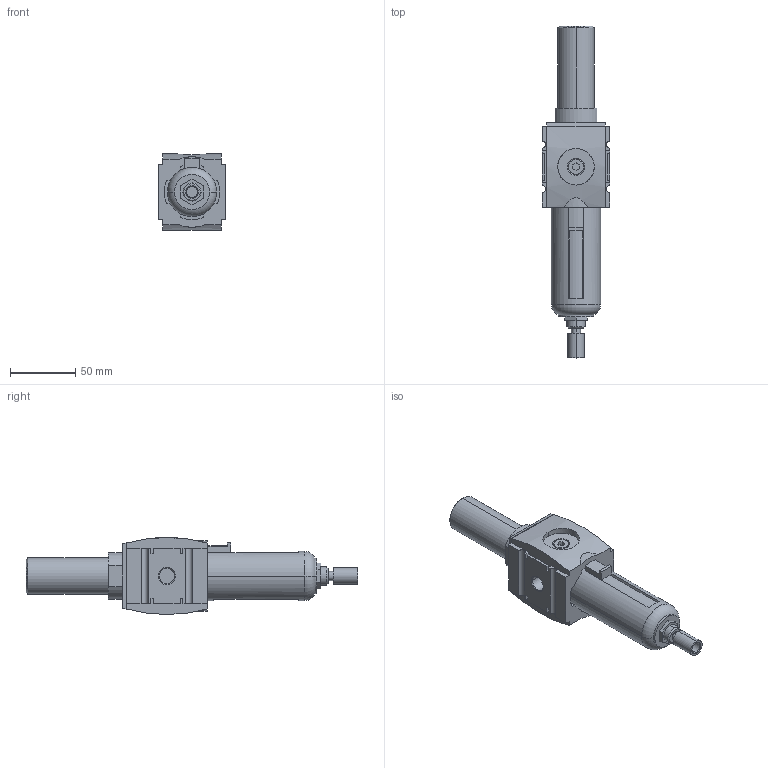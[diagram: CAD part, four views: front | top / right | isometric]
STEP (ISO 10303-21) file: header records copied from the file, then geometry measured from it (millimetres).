
FILE_DESCRIPTION((''),'2;1');
FILE_NAME('R412006189_ASM','2019-05-31T',('hug2hc'),(''),'CREO PARAMETRIC BY PTC INC, 2016260','CREO PARAMETRIC BY PTC INC, 2016260','');
FILE_SCHEMA(('CONFIG_CONTROL_DESIGN'));
Length unit declared in the file: millimetre
Products named in the file (4): R412006189; AS2_RES_FILTER_FULLY; AS2_PLUG_14; R412006189_ASM
Assembly tree (3 placements, depth 2):
  R412006189_ASM
    R412006189
    AS2_RES_FILTER_FULLY
    AS2_PLUG_14
Bounding box: 52 x 254.4 x 59 mm (x, y, z)
Volume: 311231.4 mm3; surface area: 50778 mm2
Topology: 3 solids, 3 shells, 216 faces, 541 edges, 354 vertices
Faces by surface type: plane 142, cylinder 54, cone 18, torus 2
Entity records: 6745 total; most frequent: CARTESIAN_POINT 1310, DIRECTION 1133, ORIENTED_EDGE 1082, EDGE_CURVE 541, VECTOR 387, LINE 387, AXIS2_PLACEMENT_3D 373, VERTEX_POINT 354
